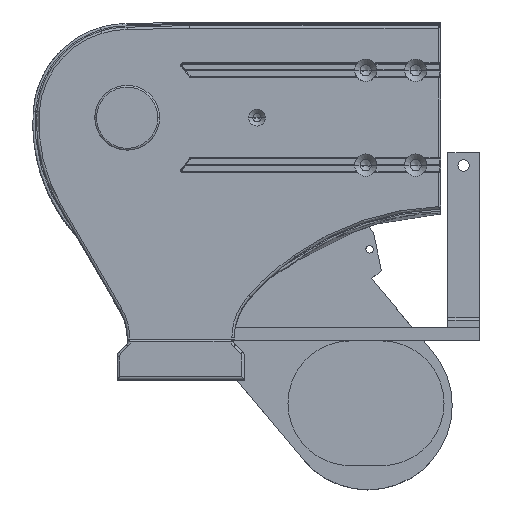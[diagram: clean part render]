
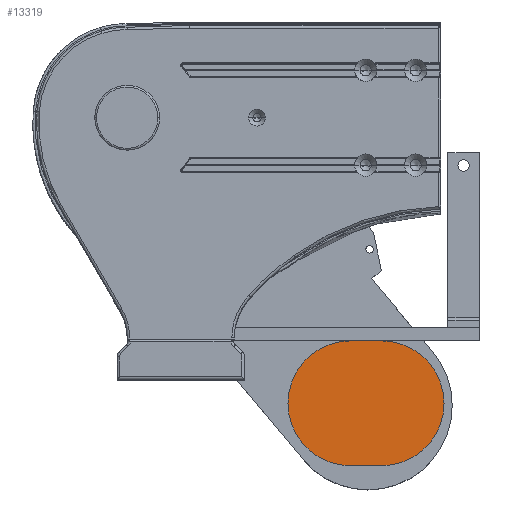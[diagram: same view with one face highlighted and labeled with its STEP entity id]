
A CAD part, top view. The second image highlights one B-rep face of the part: STEP entity #13319.
In plain terms, the highlighted planar face has unit normal (0, 0, 1).
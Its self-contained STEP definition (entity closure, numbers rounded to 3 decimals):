
#405 = VERTEX_POINT ( 'NONE', #30072 ) ;
#878 = DIRECTION ( 'NONE',  ( 0., 0., 1. ) ) ;
#1656 = DIRECTION ( 'NONE',  ( 0., 0., 1. ) ) ;
#1706 = EDGE_CURVE ( 'NONE', #1786, #23188, #17489, .T. ) ;
#1786 = VERTEX_POINT ( 'NONE', #8650 ) ;
#2252 = ORIENTED_EDGE ( 'NONE', *, *, #8053, .T. ) ;
#2924 = ORIENTED_EDGE ( 'NONE', *, *, #3588, .T. ) ;
#3457 = FACE_OUTER_BOUND ( 'NONE', #25344, .T. ) ;
#3588 = EDGE_CURVE ( 'NONE', #405, #1786, #11359, .T. ) ;
#3826 = CARTESIAN_POINT ( 'NONE',  ( 0.003, -0.004, -280. ) ) ;
#4124 = DIRECTION ( 'NONE',  ( 0.643, -0.766, 0. ) ) ;
#4947 = CIRCLE ( 'NONE', #7543, 65.5 ) ;
#5960 = DIRECTION ( 'NONE',  ( 0., 0., 1. ) ) ;
#7139 = EDGE_CURVE ( 'NONE', #14160, #405, #8296, .T. ) ;
#7340 = DIRECTION ( 'NONE',  ( 0., 0., 1. ) ) ;
#7543 = AXIS2_PLACEMENT_3D ( 'NONE', #3826, #1656, #25014 ) ;
#8044 = CARTESIAN_POINT ( 'NONE',  ( 0.003, -0.004, -280. ) ) ;
#8053 = EDGE_CURVE ( 'NONE', #23188, #12203, #4947, .T. ) ;
#8296 = CIRCLE ( 'NONE', #18825, 65.5 ) ;
#8624 = AXIS2_PLACEMENT_3D ( 'NONE', #19482, #878, #12489 ) ;
#8650 = CARTESIAN_POINT ( 'NONE',  ( 243.014, -187.716, -280. ) ) ;
#8949 = EDGE_CURVE ( 'NONE', #12203, #14160, #20635, .T. ) ;
#9464 = CARTESIAN_POINT ( 'NONE',  ( 50.179, 42.099, -280. ) ) ;
#10040 = CARTESIAN_POINT ( 'NONE',  ( 192.838, -229.818, -280. ) ) ;
#10839 = ORIENTED_EDGE ( 'NONE', *, *, #7139, .T. ) ;
#11359 = CIRCLE ( 'NONE', #8624, 65.5 ) ;
#11440 = VECTOR ( 'NONE', #4124, 1000. ) ;
#12069 = DIRECTION ( 'NONE',  ( 1., 0., 0. ) ) ;
#12203 = VERTEX_POINT ( 'NONE', #14849 ) ;
#12489 = DIRECTION ( 'NONE',  ( 1., 0., 0. ) ) ;
#13074 = CARTESIAN_POINT ( 'NONE',  ( -50.173, -42.106, -280. ) ) ;
#13319 = ADVANCED_FACE ( 'NONE', ( #3457 ), #29433, .T. ) ;
#14160 = VERTEX_POINT ( 'NONE', #29923 ) ;
#14849 = CARTESIAN_POINT ( 'NONE',  ( -50.173, -42.106, -280. ) ) ;
#17489 = LINE ( 'NONE', #24159, #24528 ) ;
#18825 = AXIS2_PLACEMENT_3D ( 'NONE', #10040, #7340, #12069 ) ;
#19482 = CARTESIAN_POINT ( 'NONE',  ( 192.838, -229.818, -280. ) ) ;
#19743 = DIRECTION ( 'NONE',  ( 1., 0., 0. ) ) ;
#20255 = ORIENTED_EDGE ( 'NONE', *, *, #1706, .T. ) ;
#20635 = LINE ( 'NONE', #13074, #11440 ) ;
#22251 = AXIS2_PLACEMENT_3D ( 'NONE', #8044, #5960, #19743 ) ;
#23188 = VERTEX_POINT ( 'NONE', #9464 ) ;
#23946 = DIRECTION ( 'NONE',  ( -0.643, 0.766, 0. ) ) ;
#24159 = CARTESIAN_POINT ( 'NONE',  ( 243.014, -187.716, -280. ) ) ;
#24528 = VECTOR ( 'NONE', #23946, 1000. ) ;
#25014 = DIRECTION ( 'NONE',  ( 1., 0., 0. ) ) ;
#25344 = EDGE_LOOP ( 'NONE', ( #2252, #27700, #10839, #2924, #20255 ) ) ;
#27700 = ORIENTED_EDGE ( 'NONE', *, *, #8949, .T. ) ;
#29433 = PLANE ( 'NONE',  #22251 ) ;
#29923 = CARTESIAN_POINT ( 'NONE',  ( 142.662, -271.92, -280. ) ) ;
#30072 = CARTESIAN_POINT ( 'NONE',  ( 258.338, -229.818, -280. ) ) ;
